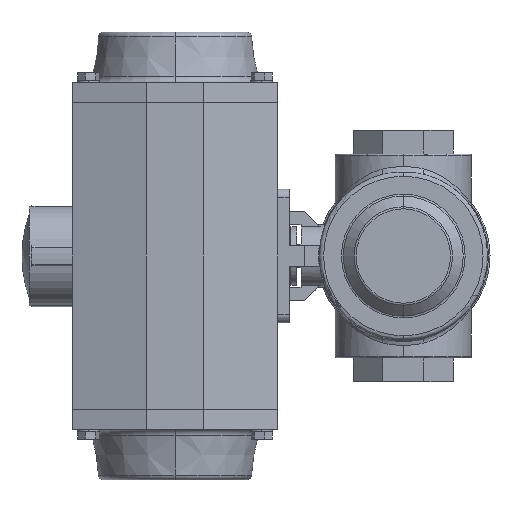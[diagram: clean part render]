
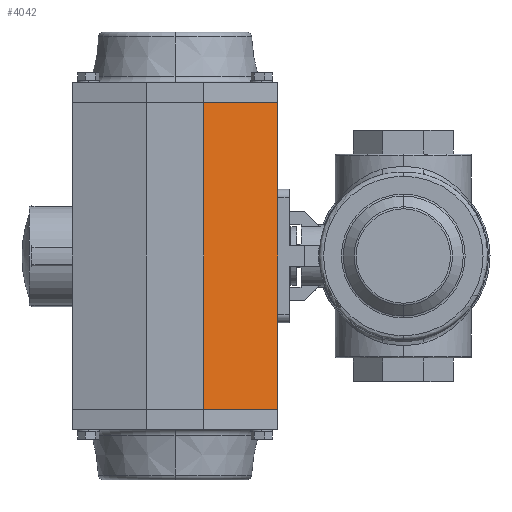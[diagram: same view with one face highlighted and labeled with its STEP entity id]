
A CAD part, left-side view. The second image highlights one B-rep face of the part: STEP entity #4042.
In plain terms, the highlighted planar face has unit normal (-0.964, -0.265, 0).
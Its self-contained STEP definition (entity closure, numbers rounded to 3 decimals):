
#42 = CARTESIAN_POINT ( 'NONE',  ( -50., -71., -106. ) ) ;
#271 = PLANE ( 'NONE',  #4154 ) ;
#441 = LINE ( 'NONE', #794, #7492 ) ;
#514 = DIRECTION ( 'NONE',  ( -0.265, 0.964, 0. ) ) ;
#794 = CARTESIAN_POINT ( 'NONE',  ( -50., -71., 106. ) ) ;
#937 = CARTESIAN_POINT ( 'NONE',  ( -50., -71., -106. ) ) ;
#2271 = CARTESIAN_POINT ( 'NONE',  ( -64., -20., -106. ) ) ;
#3532 = VECTOR ( 'NONE', #514, 1000. ) ;
#3558 = DIRECTION ( 'NONE',  ( -0.265, 0.964, 0. ) ) ;
#3652 = ORIENTED_EDGE ( 'NONE', *, *, #6981, .F. ) ;
#4042 = ADVANCED_FACE ( 'NONE', ( #12750 ), #271, .F. ) ;
#4119 = CARTESIAN_POINT ( 'NONE',  ( -64., -20., 106. ) ) ;
#4154 = AXIS2_PLACEMENT_3D ( 'NONE', #5932, #15726, #7353 ) ;
#4262 = EDGE_CURVE ( 'NONE', #9618, #5004, #441, .T. ) ;
#4313 = EDGE_LOOP ( 'NONE', ( #4864, #16483, #3652, #4810 ) ) ;
#4810 = ORIENTED_EDGE ( 'NONE', *, *, #9692, .F. ) ;
#4864 = ORIENTED_EDGE ( 'NONE', *, *, #11032, .T. ) ;
#5004 = VERTEX_POINT ( 'NONE', #4119 ) ;
#5843 = VERTEX_POINT ( 'NONE', #2271 ) ;
#5932 = CARTESIAN_POINT ( 'NONE',  ( -50., -71., -106. ) ) ;
#6936 = LINE ( 'NONE', #11240, #13945 ) ;
#6981 = EDGE_CURVE ( 'NONE', #5843, #5004, #6936, .T. ) ;
#7353 = DIRECTION ( 'NONE',  ( -0.265, 0.964, 0. ) ) ;
#7492 = VECTOR ( 'NONE', #3558, 1000. ) ;
#8332 = VECTOR ( 'NONE', #14999, 1000. ) ;
#8424 = DIRECTION ( 'NONE',  ( 0., 0., 1. ) ) ;
#9618 = VERTEX_POINT ( 'NONE', #17218 ) ;
#9692 = EDGE_CURVE ( 'NONE', #12606, #5843, #11011, .T. ) ;
#10343 = CARTESIAN_POINT ( 'NONE',  ( -50., -71., -106. ) ) ;
#11011 = LINE ( 'NONE', #10343, #3532 ) ;
#11032 = EDGE_CURVE ( 'NONE', #12606, #9618, #12041, .T. ) ;
#11240 = CARTESIAN_POINT ( 'NONE',  ( -64., -20., -106. ) ) ;
#12041 = LINE ( 'NONE', #937, #8332 ) ;
#12606 = VERTEX_POINT ( 'NONE', #42 ) ;
#12750 = FACE_OUTER_BOUND ( 'NONE', #4313, .T. ) ;
#13945 = VECTOR ( 'NONE', #8424, 1000. ) ;
#14999 = DIRECTION ( 'NONE',  ( 0., 0., 1. ) ) ;
#15726 = DIRECTION ( 'NONE',  ( 0.964, 0.265, 0. ) ) ;
#16483 = ORIENTED_EDGE ( 'NONE', *, *, #4262, .T. ) ;
#17218 = CARTESIAN_POINT ( 'NONE',  ( -50., -71., 106. ) ) ;
